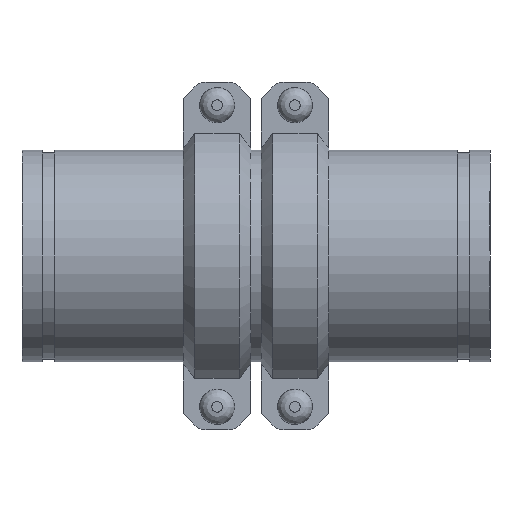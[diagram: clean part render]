
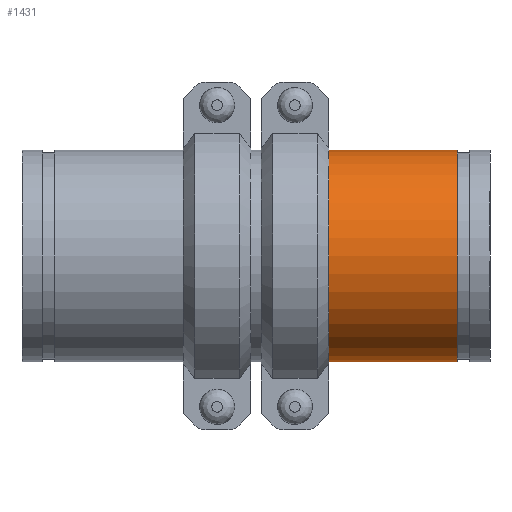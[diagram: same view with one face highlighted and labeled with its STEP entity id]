
A CAD part, front view. The second image highlights one B-rep face of the part: STEP entity #1431.
In plain terms, the highlighted cylindrical face has radius 82.55 mm (diameter 165.1 mm), a full revolution.
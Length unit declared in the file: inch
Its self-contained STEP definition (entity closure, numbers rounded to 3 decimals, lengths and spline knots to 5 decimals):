
#59=LINE('',#2304,#152);
#152=VECTOR('',#1861,3.25);
#245=CYLINDRICAL_SURFACE('',#1647,3.25);
#302=FACE_OUTER_BOUND('',#387,.T.);
#387=EDGE_LOOP('',(#940,#941,#942,#943,#944,#945));
#497=CIRCLE('',#1645,3.25);
#498=CIRCLE('',#1646,3.25);
#499=CIRCLE('',#1648,3.25);
#500=CIRCLE('',#1649,3.25);
#589=VERTEX_POINT('',#2295);
#590=VERTEX_POINT('',#2296);
#591=VERTEX_POINT('',#2300);
#592=VERTEX_POINT('',#2301);
#730=EDGE_CURVE('',#589,#590,#497,.T.);
#731=EDGE_CURVE('',#590,#589,#498,.T.);
#732=EDGE_CURVE('',#591,#592,#499,.T.);
#733=EDGE_CURVE('',#592,#591,#500,.T.);
#734=EDGE_CURVE('',#592,#590,#59,.T.);
#940=ORIENTED_EDGE('',*,*,#732,.F.);
#941=ORIENTED_EDGE('',*,*,#733,.F.);
#942=ORIENTED_EDGE('',*,*,#734,.T.);
#943=ORIENTED_EDGE('',*,*,#731,.T.);
#944=ORIENTED_EDGE('',*,*,#730,.T.);
#945=ORIENTED_EDGE('',*,*,#734,.F.);
#1431=ADVANCED_FACE('',(#302),#245,.T.);
#1645=AXIS2_PLACEMENT_3D('',#2297,#1851,#1852);
#1646=AXIS2_PLACEMENT_3D('',#2298,#1853,#1854);
#1647=AXIS2_PLACEMENT_3D('',#2299,#1855,#1856);
#1648=AXIS2_PLACEMENT_3D('',#2302,#1857,#1858);
#1649=AXIS2_PLACEMENT_3D('',#2303,#1859,#1860);
#1851=DIRECTION('center_axis',(-1.,0.,0.));
#1852=DIRECTION('ref_axis',(0.,0.,1.));
#1853=DIRECTION('center_axis',(-1.,0.,0.));
#1854=DIRECTION('ref_axis',(0.,0.,1.));
#1855=DIRECTION('center_axis',(-1.,0.,0.));
#1856=DIRECTION('ref_axis',(0.,1.,0.));
#1857=DIRECTION('center_axis',(-1.,0.,0.));
#1858=DIRECTION('ref_axis',(0.,0.,1.));
#1859=DIRECTION('center_axis',(-1.,0.,0.));
#1860=DIRECTION('ref_axis',(0.,0.,1.));
#1861=DIRECTION('',(1.,0.,0.));
#2295=CARTESIAN_POINT('',(1.985,3.25,0.));
#2296=CARTESIAN_POINT('',(1.985,-3.25,0.));
#2297=CARTESIAN_POINT('Origin',(1.985,0.,0.));
#2298=CARTESIAN_POINT('Origin',(1.985,0.,0.));
#2299=CARTESIAN_POINT('Origin',(0.,0.,
0.));
#2300=CARTESIAN_POINT('',(-1.985,3.25,0.));
#2301=CARTESIAN_POINT('',(-1.985,-3.25,0.));
#2302=CARTESIAN_POINT('Origin',(-1.985,0.,0.));
#2303=CARTESIAN_POINT('Origin',(-1.985,0.,0.));
#2304=CARTESIAN_POINT('',(0.,-3.25,0.));
